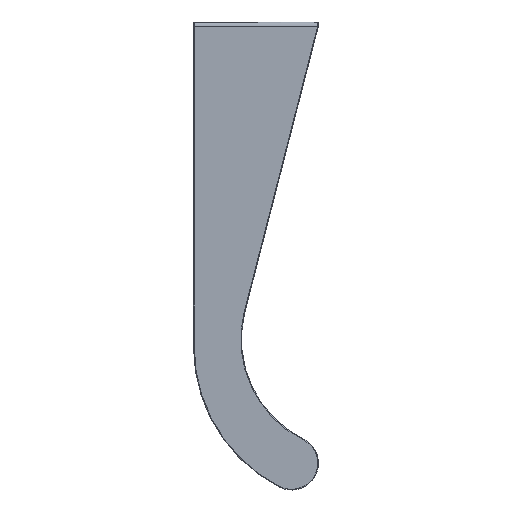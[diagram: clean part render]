
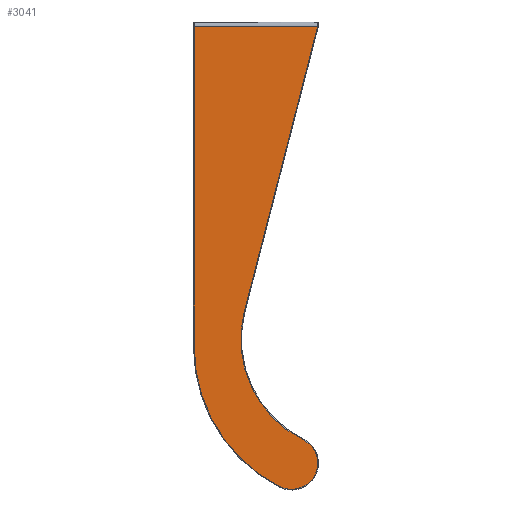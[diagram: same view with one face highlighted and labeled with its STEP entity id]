
A CAD part, front view. The second image highlights one B-rep face of the part: STEP entity #3041.
In plain terms, the highlighted planar face has unit normal (0, -1, 0).
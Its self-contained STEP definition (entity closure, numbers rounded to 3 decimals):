
#1027=DIRECTION('',(0.,0.,1.));
#1028=VECTOR('',#1027,89.8);
#1029=CARTESIAN_POINT('',(-34.8,-70.,-90.));
#1030=LINE('',#1029,#1028);
#1031=DIRECTION('',(1.,0.,0.));
#1032=VECTOR('',#1031,34.542);
#1033=CARTESIAN_POINT('',(-34.8,-70.,-0.2));
#1034=LINE('',#1033,#1032);
#1035=DIRECTION('',(-0.249,0.,-0.968));
#1036=VECTOR('',#1035,82.369);
#1037=CARTESIAN_POINT('',(-0.258,-70.,-0.2));
#1038=LINE('',#1037,#1036);
#1039=CARTESIAN_POINT('',(9.65,-70.,-87.796));
#1040=DIRECTION('',(0.,-1.,0.));
#1041=DIRECTION('',(-0.968,0.,0.249));
#1042=AXIS2_PLACEMENT_3D('',#1039,#1040,#1041);
#1044=CARTESIAN_POINT('',(-7.5,-70.,-122.5));
#1045=DIRECTION('',(0.,1.,0.));
#1046=DIRECTION('',(0.443,0.,0.896));
#1047=AXIS2_PLACEMENT_3D('',#1044,#1045,#1046);
#1049=CARTESIAN_POINT('',(8.906,-70.,-90.));
#1050=DIRECTION('',(0.,1.,0.));
#1051=DIRECTION('',(-0.451,0.,-0.893));
#1052=AXIS2_PLACEMENT_3D('',#1049,#1050,#1051);
#1556=CARTESIAN_POINT('',(-34.8,-70.,-0.2));
#1557=VERTEX_POINT('',#1556);
#1560=CARTESIAN_POINT('',(-34.8,-70.,-90.));
#1561=VERTEX_POINT('',#1560);
#1564=CARTESIAN_POINT('',(-10.79,-70.,-129.017));
#1565=VERTEX_POINT('',#1564);
#1568=CARTESIAN_POINT('',(-4.266,-70.,-115.956));
#1569=VERTEX_POINT('',#1568);
#1572=CARTESIAN_POINT('',(-20.77,-70.,-79.975));
#1573=VERTEX_POINT('',#1572);
#1576=CARTESIAN_POINT('',(-0.258,-70.,-0.2));
#1577=VERTEX_POINT('',#1576);
#3025=CARTESIAN_POINT('',(-35.,-70.,0.));
#3026=DIRECTION('',(0.,-1.,0.));
#3027=DIRECTION('',(1.,0.,0.));
#3028=AXIS2_PLACEMENT_3D('',#3025,#3026,#3027);
#3029=PLANE('',#3028);
#3030=ORIENTED_EDGE('',*,*,#3019,.T.);
#3031=ORIENTED_EDGE('',*,*,#2740,.T.);
#3033=ORIENTED_EDGE('',*,*,#3032,.T.);
#3035=ORIENTED_EDGE('',*,*,#3034,.T.);
#3037=ORIENTED_EDGE('',*,*,#3036,.T.);
#3038=ORIENTED_EDGE('',*,*,#3005,.T.);
#3039=EDGE_LOOP('',(#3030,#3031,#3033,#3035,#3037,#3038));
#3040=FACE_OUTER_BOUND('',#3039,.F.);
#1043=CIRCLE('',#1042,31.41);
#1048=CIRCLE('',#1047,7.3);
#1053=CIRCLE('',#1052,43.706);
#2740=EDGE_CURVE('',#1557,#1577,#1034,.T.);
#3005=EDGE_CURVE('',#1565,#1561,#1053,.T.);
#3019=EDGE_CURVE('',#1561,#1557,#1030,.T.);
#3032=EDGE_CURVE('',#1577,#1573,#1038,.T.);
#3034=EDGE_CURVE('',#1573,#1569,#1043,.T.);
#3036=EDGE_CURVE('',#1569,#1565,#1048,.T.);
#3041=ADVANCED_FACE('',(#3040),#3029,.T.);
